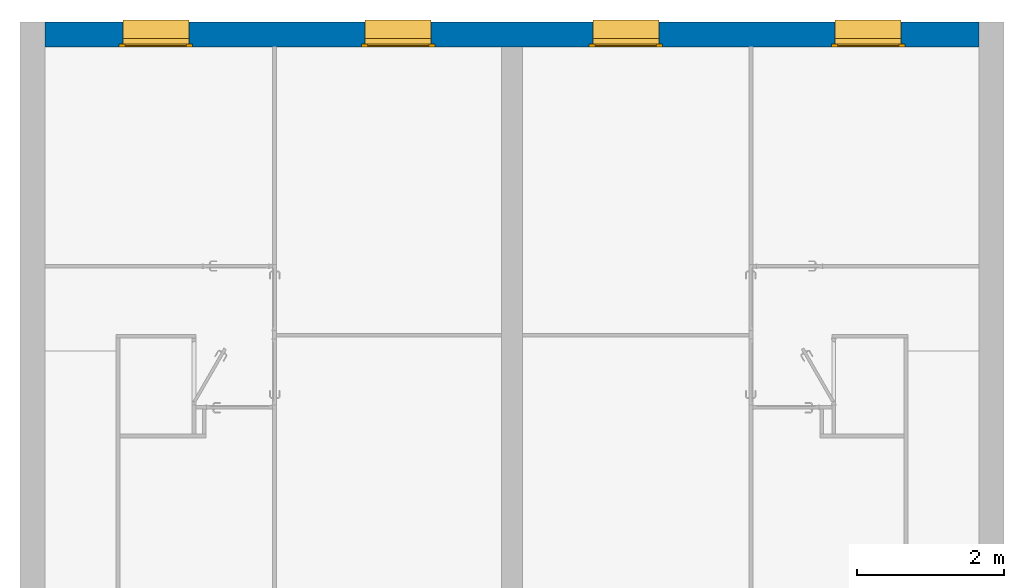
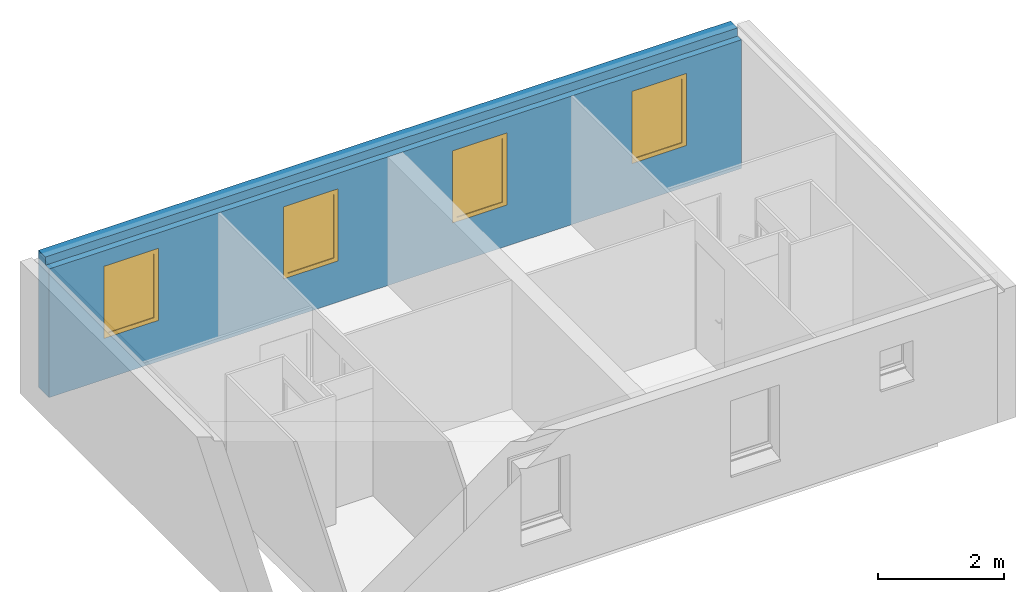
# One storey, part 11 of 13: 4 windows, 1 wall, 4 openings.
"""IFC2X3 building model written with IfcOpenShell, lengths in metres."""

from ifc_helpers import new_model, entity, si_unit, converted_unit, derived_unit, direction, frame, frame_2d, origin, origin_2d_with_axis, place, context, subcontext, project, spatial, polyline, rectangle, outline, extrude, clip, bounded_halfspace, faceted_brep, source, transform, mapped, material, material_list, layer, layer_set, layer_usage, type_object, type_shapes, element, fill, save


model = new_model("IFC2X3")

# Units and contexts
model_context = context("Model", 3, precision=1e-05, world=origin(), true_north=direction((6.12303176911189e-17, 1.0)))
body_context = subcontext(model_context, "Body", "Model", "MODEL_VIEW")
ifc_project = project(units=[si_unit("LENGTHUNIT", "METRE"), si_unit("AREAUNIT", "SQUARE_METRE"), si_unit("VOLUMEUNIT", "CUBIC_METRE"), converted_unit("PLANEANGLEUNIT", "DEGREE", entity("IfcRatioMeasure", 0.0174532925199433), si_unit("PLANEANGLEUNIT", "RADIAN"), dimensions=[0, 0, 0, 0, 0, 0, 0]), si_unit("MASSUNIT", "GRAM", prefix="KILO"), si_unit("TIMEUNIT", "SECOND"), si_unit("FREQUENCYUNIT", "HERTZ"), si_unit("THERMODYNAMICTEMPERATUREUNIT", "DEGREE_CELSIUS"), derived_unit("THERMALTRANSMITTANCEUNIT", [(si_unit("MASSUNIT", "GRAM", prefix="KILO"), 1), (si_unit("THERMODYNAMICTEMPERATUREUNIT", "KELVIN"), -1), (si_unit("TIMEUNIT", "SECOND"), -3)]), derived_unit("VOLUMETRICFLOWRATEUNIT", [(si_unit("LENGTHUNIT", "METRE"), 3), (si_unit("TIMEUNIT", "SECOND"), -1)]), si_unit("ELECTRICCURRENTUNIT", "AMPERE"), si_unit("ELECTRICVOLTAGEUNIT", "VOLT"), si_unit("POWERUNIT", "WATT"), si_unit("FORCEUNIT", "NEWTON", prefix="KILO"), si_unit("ILLUMINANCEUNIT", "LUX"), si_unit("LUMINOUSFLUXUNIT", "LUMEN"), si_unit("LUMINOUSINTENSITYUNIT", "CANDELA"), derived_unit("USERDEFINED", [(si_unit("MASSUNIT", "GRAM", prefix="KILO"), -1), (si_unit("LENGTHUNIT", "METRE"), -2), (si_unit("TIMEUNIT", "SECOND"), 3), (si_unit("LUMINOUSFLUXUNIT", "LUMEN"), 1)]), derived_unit("LINEARVELOCITYUNIT", [(si_unit("LENGTHUNIT", "METRE"), 1), (si_unit("TIMEUNIT", "SECOND"), -1)]), si_unit("PRESSUREUNIT", "PASCAL"), derived_unit("USERDEFINED", [(si_unit("LENGTHUNIT", "METRE"), -2), (si_unit("MASSUNIT", "GRAM", prefix="KILO"), 1), (si_unit("TIMEUNIT", "SECOND"), -2)])], contexts=[model_context])

# Site, building, storey
site_placement = place(None, origin())
site = spatial("IfcSite", under=ifc_project, at=site_placement, Name="Surface", CompositionType="ELEMENT")
building_placement = place(site_placement, origin())
building = spatial("IfcBuilding", under=site, at=building_placement, CompositionType="ELEMENT")
storey_placement = place(building_placement, frame((0.0, 0.0, 2.74)))
storey = spatial("IfcBuildingStorey", under=building, at=storey_placement, Name="Plan étage", CompositionType="ELEMENT", Elevation=2.74)

# Wall, openings, windows
ifc_material_1 = material(Name="Maçonnerie - Enduit")
ifc_layer_1 = layer(ifc_material_1, 0.02)
ifc_material_2 = material(Name="Maçonnerie - Parpaing")
ifc_layer_2 = layer(ifc_material_2, 0.2)
ifc_material_3 = material(Name="Maçonnerie - Isolant")
ifc_layer_3 = layer(ifc_material_3, 0.11)
ifc_material_4 = material(Name="Maçonnerie - Isolant 1")
ifc_layer_4 = layer(ifc_material_4, 0.01)
ifc_layer_set = layer_set([ifc_layer_1, ifc_layer_2, ifc_layer_3, ifc_layer_4], Name="Mur de base:Mur de base Ext. Parpaing 20 + Isolant 12")
ifc_layer_usage = layer_usage(ifc_layer_set, "AXIS2", "NEGATIVE", 0.17)
wall_type = type_object("IfcWallType", Name="Mur de base:Mur de base Ext. Parpaing 20 + Isolant 12", PredefinedType="STANDARD", material=ifc_layer_set)
wall_placement = place(storey_placement, frame((-11.2960888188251, 5.51425578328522, 0.0)))
wall = element("IfcWallStandardCase", 1, at=wall_placement, inside=storey, type_object=wall_type, material=ifc_layer_usage, Name="Mur de base:Mur de base Ext. Parpaing 20 + Isolant 12", ObjectType="Mur de base:Mur de base Ext. Parpaing 20 + Isolant 12", context=body_context, shape_type="Clipping", body=[
    clip(extrude(rectangle(XDim=12.72, YDim=0.340000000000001, at=frame_2d((6.35999999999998, 0.0), x_axis=(-1.0, 0.0))), origin(), (0.0, 0.0, 1.0), 2.66), bounded_halfspace(frame((0.0, -0.169999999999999, 2.5)), False, frame((0.0, -0.169999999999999, 2.5)), polyline([(0.0, 0.0), (6.21999999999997, 0.0), (6.49999999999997, 0.0), (12.72, 0.0), (12.72, 0.119999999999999), (0.0, 0.119999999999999), (0.0, 0.0)]))),
])
opening_1_placement = place(wall_placement, frame((4.31000000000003, -0.660000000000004, 0.680576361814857)))
opening_1 = element("IfcOpeningElement", 2, at=opening_1_placement, cuts=wall, Name="Mur de base:Mur de base Ext. Parpaing 20 + Isolant 12", ObjectType="Opening", context=body_context, shape_type="Brep", body=[
    faceted_brep([(0.0499999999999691, 0.0, 1.46942363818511), (0.0499999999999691, 0.0, 0.119423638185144), (0.949999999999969, 0.0, 0.119423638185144), (0.949999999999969, 0.0, 1.46942363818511), (0.0499999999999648, 1.35, 1.46942363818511), (0.949999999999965, 1.35, 1.46942363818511), (0.949999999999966, 1.35, 0.0), (0.0499999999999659, 1.35, 0.0), (0.949999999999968, 0.490000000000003, 1.46942363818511), (0.0499999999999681, 0.490000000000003, 1.46942363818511), (0.949999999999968, 0.490000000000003, 0.119423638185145), (0.0499999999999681, 0.490000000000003, 0.119423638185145), (0.0, 0.490000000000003, 0.119423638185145), (0.0, 0.530000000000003, 0.119423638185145), (0.0499999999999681, 0.530000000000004, 0.119423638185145), (0.949999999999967, 0.530000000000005, 0.119423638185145), (1.0, 0.530000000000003, 0.119423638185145), (1.0, 0.490000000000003, 0.119423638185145), (0.949999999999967, 0.580000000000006, 0.0), (0.049999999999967, 0.580000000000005, 0.0), (0.949999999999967, 0.530000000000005, 0.0415343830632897), (0.049999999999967, 0.530000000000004, 0.0415343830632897), (1.0, 0.490000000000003, 1.51942363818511), (0.0, 0.490000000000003, 1.51942363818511), (1.0, 0.530000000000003, 1.51942363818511), (0.949999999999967, 0.530000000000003, 1.46942363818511), (0.049999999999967, 0.530000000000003, 1.46942363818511), (0.0, 0.530000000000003, 1.51942363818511)], [[[0, 1, 2, 3]], [[4, 5, 6, 7]], [[0, 3, 8, 9]], [[3, 2, 10, 8]], [[2, 1, 11, 12, 13, 14, 15, 16, 17, 10]], [[1, 0, 9, 11]], [[6, 18, 19, 7]], [[18, 20, 21, 19]], [[20, 15, 14, 21]], [[17, 22, 23, 12, 11, 9, 8, 10]], [[17, 16, 24, 22]], [[24, 16, 15, 25, 26, 14, 13, 27]], [[23, 22, 24, 27]], [[12, 23, 27, 13]], [[7, 19, 21, 14, 26, 4]], [[15, 20, 18, 6, 5, 25]], [[5, 4, 26, 25]]]),
])
opening_2_placement = place(wall_placement, frame((1.01000000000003, -0.660000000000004, 0.680576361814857)))
opening_2 = element("IfcOpeningElement", 3, at=opening_2_placement, cuts=wall, Name="Mur de base:Mur de base Ext. Parpaing 20 + Isolant 12", ObjectType="Opening", context=body_context, shape_type="Brep", body=[
    faceted_brep([(0.949999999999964, 0.0, 1.46942363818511), (0.0499999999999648, 0.0, 1.46942363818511), (0.0499999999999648, 0.0, 0.119423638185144), (0.949999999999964, 0.0, 0.119423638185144), (0.949999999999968, 1.35, 1.46942363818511), (0.949999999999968, 1.35, 0.0), (0.049999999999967, 1.35, 0.0), (0.0499999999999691, 1.35, 1.46942363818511), (0.949999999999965, 0.490000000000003, 1.46942363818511), (0.0499999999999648, 0.490000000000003, 1.46942363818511), (0.049999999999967, 0.490000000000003, 0.119423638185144), (0.0, 0.490000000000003, 0.119423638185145), (0.0, 0.530000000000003, 0.119423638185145), (0.049999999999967, 0.530000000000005, 0.119423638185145), (0.949999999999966, 0.530000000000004, 0.119423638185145), (1.0, 0.530000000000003, 0.119423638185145), (1.0, 0.490000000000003, 0.119423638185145), (0.949999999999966, 0.490000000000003, 0.119423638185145), (0.949999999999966, 0.580000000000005, 0.0), (0.0499999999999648, 0.580000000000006, 0.0), (0.949999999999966, 0.530000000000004, 0.0415343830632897), (0.0499999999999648, 0.530000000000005, 0.0415343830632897), (1.0, 0.490000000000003, 1.51942363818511), (0.0, 0.490000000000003, 1.51942363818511), (0.0, 0.530000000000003, 1.51942363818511), (1.0, 0.530000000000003, 1.51942363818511), (0.949999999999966, 0.530000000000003, 1.46942363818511), (0.0499999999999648, 0.530000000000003, 1.46942363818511)], [[[0, 1, 2, 3]], [[4, 5, 6, 7]], [[0, 8, 9, 1]], [[1, 9, 10, 2]], [[2, 10, 11, 12, 13, 14, 15, 16, 17, 3]], [[3, 17, 8, 0]], [[6, 5, 18, 19]], [[19, 18, 20, 21]], [[21, 20, 14, 13]], [[11, 10, 9, 8, 17, 16, 22, 23]], [[11, 23, 24, 12]], [[24, 25, 15, 14, 26, 27, 13, 12]], [[22, 25, 24, 23]], [[16, 15, 25, 22]], [[5, 4, 26, 14, 20, 18]], [[13, 27, 7, 6, 19, 21]], [[7, 27, 26, 4]]]),
])
opening_3_placement = place(wall_placement, frame((7.41, -0.660000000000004, 0.680576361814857)))
opening_3 = element("IfcOpeningElement", 4, at=opening_3_placement, cuts=wall, Name="Mur de base:Mur de base Ext. Parpaing 20 + Isolant 12", ObjectType="Opening", context=body_context, shape_type="Brep", body=[
    faceted_brep([(0.949999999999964, 0.0, 1.46942363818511), (0.0499999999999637, 0.0, 1.46942363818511), (0.0499999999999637, 0.0, 0.119423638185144), (0.949999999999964, 0.0, 0.119423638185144), (0.949999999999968, 1.35, 1.46942363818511), (0.949999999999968, 1.35, 0.0), (0.049999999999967, 1.35, 0.0), (0.0499999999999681, 1.35, 1.46942363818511), (0.949999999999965, 0.490000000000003, 1.46942363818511), (0.0499999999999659, 0.490000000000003, 1.46942363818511), (0.0499999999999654, 0.490000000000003, 0.119423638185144), (0.0, 0.490000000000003, 0.119423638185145), (0.0, 0.530000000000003, 0.119423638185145), (0.0499999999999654, 0.530000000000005, 0.119423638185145), (0.949999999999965, 0.530000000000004, 0.119423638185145), (1.0, 0.530000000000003, 0.119423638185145), (1.0, 0.490000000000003, 0.119423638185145), (0.949999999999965, 0.490000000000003, 0.119423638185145), (0.949999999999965, 0.580000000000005, 0.0), (0.0499999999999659, 0.580000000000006, 0.0), (0.949999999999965, 0.530000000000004, 0.0415343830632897), (0.0499999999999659, 0.530000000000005, 0.0415343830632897), (1.0, 0.490000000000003, 1.51942363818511), (0.0, 0.490000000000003, 1.51942363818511), (0.0, 0.530000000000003, 1.51942363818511), (1.0, 0.530000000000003, 1.51942363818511), (0.949999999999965, 0.530000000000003, 1.46942363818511), (0.0499999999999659, 0.530000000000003, 1.46942363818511)], [[[0, 1, 2, 3]], [[4, 5, 6, 7]], [[0, 8, 9, 1]], [[1, 9, 10, 2]], [[2, 10, 11, 12, 13, 14, 15, 16, 17, 3]], [[3, 17, 8, 0]], [[6, 5, 18, 19]], [[19, 18, 20, 21]], [[21, 20, 14, 13]], [[11, 10, 9, 8, 17, 16, 22, 23]], [[11, 23, 24, 12]], [[24, 25, 15, 14, 26, 27, 13, 12]], [[22, 25, 24, 23]], [[16, 15, 25, 22]], [[5, 4, 26, 14, 20, 18]], [[13, 27, 7, 6, 19, 21]], [[7, 27, 26, 4]]]),
])
opening_4_placement = place(wall_placement, frame((10.71, -0.660000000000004, 0.680576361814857)))
opening_4 = element("IfcOpeningElement", 5, at=opening_4_placement, cuts=wall, Name="Mur de base:Mur de base Ext. Parpaing 20 + Isolant 12", ObjectType="Opening", context=body_context, shape_type="Brep", body=[
    faceted_brep([(0.949999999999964, 0.0, 1.46942363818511), (0.0499999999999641, 0.0, 1.46942363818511), (0.0499999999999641, 0.0, 0.119423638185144), (0.949999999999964, 0.0, 0.119423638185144), (0.949999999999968, 1.35, 1.46942363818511), (0.949999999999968, 1.35, 0.0), (0.0499999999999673, 1.35, 0.0), (0.0499999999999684, 1.35, 1.46942363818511), (0.949999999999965, 0.490000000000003, 1.46942363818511), (0.0499999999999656, 0.490000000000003, 1.46942363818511), (0.0499999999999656, 0.490000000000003, 0.119423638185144), (0.0, 0.490000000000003, 0.119423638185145), (0.0, 0.530000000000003, 0.119423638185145), (0.0499999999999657, 0.530000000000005, 0.119423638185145), (0.949999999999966, 0.530000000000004, 0.119423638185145), (1.0, 0.530000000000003, 0.119423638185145), (1.0, 0.490000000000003, 0.119423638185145), (0.949999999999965, 0.490000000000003, 0.119423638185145), (0.949999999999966, 0.580000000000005, 0.0), (0.049999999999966, 0.580000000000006, 0.0), (0.949999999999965, 0.530000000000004, 0.0415343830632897), (0.0499999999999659, 0.530000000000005, 0.0415343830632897), (1.0, 0.490000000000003, 1.51942363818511), (0.0, 0.490000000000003, 1.51942363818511), (0.0, 0.530000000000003, 1.51942363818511), (1.0, 0.530000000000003, 1.51942363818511), (0.949999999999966, 0.530000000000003, 1.46942363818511), (0.0499999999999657, 0.530000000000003, 1.46942363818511)], [[[0, 1, 2, 3]], [[4, 5, 6, 7]], [[0, 8, 9, 1]], [[1, 9, 10, 2]], [[2, 10, 11, 12, 13, 14, 15, 16, 17, 3]], [[3, 17, 8, 0]], [[6, 5, 18, 19]], [[19, 18, 20, 21]], [[21, 20, 14, 13]], [[11, 10, 9, 8, 17, 16, 22, 23]], [[11, 23, 24, 12]], [[24, 25, 15, 14, 26, 27, 13, 12]], [[22, 25, 24, 23]], [[16, 15, 25, 22]], [[5, 4, 26, 14, 20, 18]], [[13, 27, 7, 6, 19, 21]], [[7, 27, 26, 4]]]),
])
ifc_material_5 = material(Name="Appui")
ifc_material_6 = material(Name="Huisserie")
ifc_material_7 = material(Name="Verre")
ifc_material_list_1 = material_list([ifc_material_5, ifc_material_6, ifc_material_7])
ifc_material_list_2 = material_list([ifc_material_5, ifc_material_6, ifc_material_7])
window_style_1 = type_object("IfcWindowStyle", Name="90x135", ConstructionType="NOTDEFINED", OperationType="NOTDEFINED", ParameterTakesPrecedence=False, Sizeable=False, material=ifc_material_list_2)
shared_shape_1 = source(origin(), body_context, "Body", "SweptSolid", [
    extrude(outline(polyline([(-0.0614771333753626, -0.0657142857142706), (-0.0614771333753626, -0.115714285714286), (0.0164121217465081, -0.115714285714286), (0.0579465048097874, -0.0657142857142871), (0.0579465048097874, 0.2142857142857), (0.0182470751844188, 0.2142857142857), (-0.0275979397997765, -0.0657142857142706), (-0.0614771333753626, -0.0657142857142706)])), frame((1.23999999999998, -0.915952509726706, 0.0579465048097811), z_axis=(1.0, 0.0, 0.0), x_axis=(0.0, 0.0, -1.0)), (0.0, 0.0, -1.0), 0.9),
    extrude(outline(polyline([(-0.00493030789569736, -0.0400000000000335), (0.0134200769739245, -0.0400000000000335), (0.0134200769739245, 0.0400000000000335), (-0.021909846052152, 0.0400000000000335), (-0.00493030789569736, -0.0400000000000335)])), frame((1.23999999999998, -0.991666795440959, 0.132843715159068), z_axis=(-1.0, 0.0, 0.0), x_axis=(0.0, 0.0, -1.0)), (0.0, 0.0, 1.0), 0.9),
    extrude(outline(polyline([(-0.499999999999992, -0.69997185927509), (0.499999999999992, -0.69997185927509), (0.499999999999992, 0.699971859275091), (-0.499999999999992, 0.699971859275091), (-0.499999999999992, -0.69997185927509)]), holes=[polyline([(-0.419999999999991, 0.61997185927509), (0.419999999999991, 0.61997185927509), (0.419999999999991, -0.619971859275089), (-0.419999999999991, -0.619971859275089), (-0.419999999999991, 0.61997185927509)])]), frame((0.789999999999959, -1.03166679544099, 0.819395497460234), z_axis=(0.0, -1.0, 0.0), x_axis=(-1.0, 0.0, 0.0)), (0.0, 0.0, 1.0), 0.0399999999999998),
    extrude(rectangle(XDim=0.839999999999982, YDim=0.0100226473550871, at=frame_2d((2.77555756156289e-17, 0.0), x_axis=(1.0, 0.0))), frame((0.789999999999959, -1.05165673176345, 0.199423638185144)), (0.0, 0.0, 1.0), 1.23994371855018),
])
type_shapes(window_style_1, [shared_shape_1])
window_1_placement = place(opening_1_placement, frame((-0.290000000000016, 1.561666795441, 0.0)))
window_1 = element("IfcWindow", 6, at=window_1_placement, inside=storey, type_object=window_style_1, material=ifc_material_list_1, Name="FR_1  Vantail Appui Béton:90x135", ObjectType="90x135", OverallHeight=1.65997242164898, OverallWidth=0.999999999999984, context=body_context, shape_type="MappedRepresentation", body=[
    mapped(shared_shape_1, transform((0.0, 0.0, 0.0), scale=1.0)),
])
fill(opening_1, window_1)
ifc_material_list_3 = material_list([ifc_material_5, ifc_material_6, ifc_material_7])
ifc_material_list_4 = material_list([ifc_material_5, ifc_material_6, ifc_material_7])
window_style_2 = type_object("IfcWindowStyle", Name="90x135", ConstructionType="NOTDEFINED", OperationType="NOTDEFINED", ParameterTakesPrecedence=False, Sizeable=False, material=ifc_material_list_4)
shared_shape_2 = source(origin(), body_context, "Body", "SweptSolid", [
    extrude(outline(polyline([(0.0657142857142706, -0.0614771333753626), (0.115714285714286, -0.0614771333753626), (0.115714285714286, 0.0164121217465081), (0.0657142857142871, 0.0579465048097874), (-0.2142857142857, 0.0579465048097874), (-0.2142857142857, 0.0182470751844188), (0.0657142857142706, -0.0275979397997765), (0.0657142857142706, -0.0614771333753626)])), frame((0.0499999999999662, -0.704285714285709, 0.0579465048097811), z_axis=(1.0, 0.0, 0.0), x_axis=(0.0, -1.0, 0.0)), (0.0, 0.0, 1.0), 0.9),
    extrude(outline(polyline([(-0.0381047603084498, -0.0131276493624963), (0.0436772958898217, -0.0131276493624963), (0.0363421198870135, 0.0214324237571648), (-0.0419146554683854, 0.00482287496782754), (-0.0381047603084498, -0.0131276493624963)])), frame((0.0499999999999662, -0.779999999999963, 0.132843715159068), z_axis=(1.0, 0.0, 0.0), x_axis=(0.0, -0.978209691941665, 0.207619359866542)), (0.0, 0.0, 1.0), 0.899999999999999),
    extrude(outline(polyline([(-0.699971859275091, -0.499999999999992), (0.69997185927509, -0.499999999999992), (0.69997185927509, 0.499999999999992), (-0.699971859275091, 0.499999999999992), (-0.699971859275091, -0.499999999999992)]), holes=[polyline([(0.619971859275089, -0.419999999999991), (-0.61997185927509, -0.419999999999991), (-0.61997185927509, 0.419999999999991), (0.619971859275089, 0.419999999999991), (0.619971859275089, -0.419999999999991)])]), frame((0.499999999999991, -0.859999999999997, 0.819395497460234), z_axis=(0.0, 1.0, 0.0), x_axis=(0.0, 0.0, 1.0)), (0.0, 0.0, 1.0), 0.0399999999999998),
    extrude(rectangle(XDim=0.0100226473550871, YDim=0.839999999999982, at=origin_2d_with_axis()), frame((0.499999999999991, -0.839989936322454, 0.199423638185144), z_axis=(0.0, 0.0, 1.0), x_axis=(0.0, 1.0, 0.0)), (0.0, 0.0, 1.0), 1.23994371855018),
])
type_shapes(window_style_2, [shared_shape_2])
window_2_placement = place(opening_2_placement, frame((0.0, 1.35, 0.0)))
window_2 = element("IfcWindow", 7, at=window_2_placement, inside=storey, type_object=window_style_2, material=ifc_material_list_3, Name="FR_1  Vantail Appui Béton:90x135", ObjectType="90x135", OverallHeight=1.65997242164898, OverallWidth=0.999999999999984, context=body_context, shape_type="MappedRepresentation", body=[
    mapped(shared_shape_2, transform((0.0, 0.0, 0.0), scale=1.0)),
])
fill(opening_2, window_2)
ifc_material_list_5 = material_list([ifc_material_5, ifc_material_6, ifc_material_7])
window_3_placement = place(opening_3_placement, frame((0.0, 1.35, 0.0)))
window_3 = element("IfcWindow", 8, at=window_3_placement, inside=storey, type_object=window_style_2, material=ifc_material_list_5, Name="FR_1  Vantail Appui Béton:90x135", ObjectType="90x135", OverallHeight=1.65997242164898, OverallWidth=0.999999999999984, context=body_context, shape_type="MappedRepresentation", body=[
    mapped(shared_shape_2, transform((0.0, 0.0, 0.0), scale=1.0)),
])
fill(opening_3, window_3)
ifc_material_list_6 = material_list([ifc_material_5, ifc_material_6, ifc_material_7])
window_4_placement = place(opening_4_placement, frame((0.0, 1.35, 0.0)))
window_4 = element("IfcWindow", 9, at=window_4_placement, inside=storey, type_object=window_style_2, material=ifc_material_list_6, Name="FR_1  Vantail Appui Béton:90x135", ObjectType="90x135", OverallHeight=1.65997242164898, OverallWidth=0.999999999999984, context=body_context, shape_type="MappedRepresentation", body=[
    mapped(shared_shape_2, transform((0.0, 0.0, 0.0), scale=1.0)),
])
fill(opening_4, window_4)

save(model, "model.ifc")
